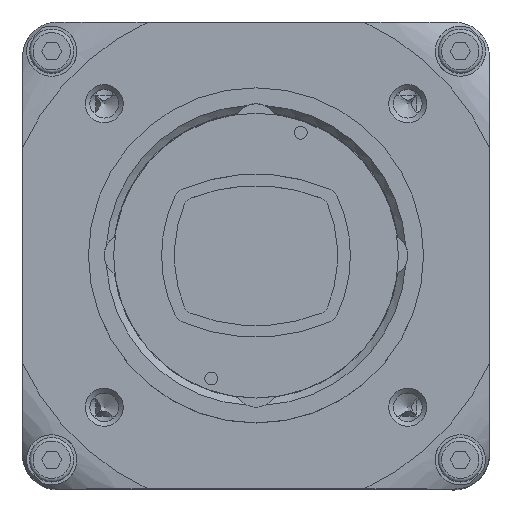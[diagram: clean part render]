
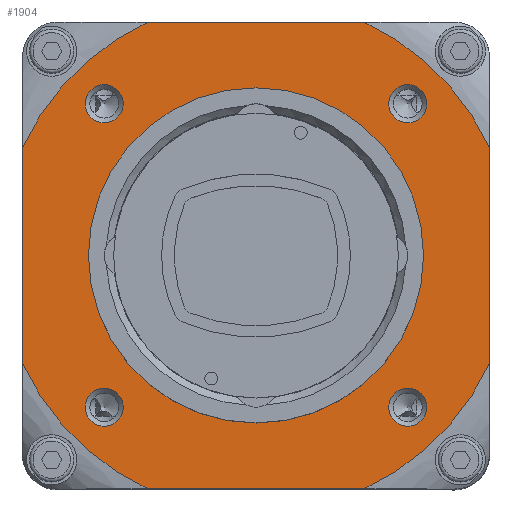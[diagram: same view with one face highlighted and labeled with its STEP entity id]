
A CAD part, top view. The second image highlights one B-rep face of the part: STEP entity #1904.
In plain terms, the highlighted planar face has unit normal (0, 0, 1).
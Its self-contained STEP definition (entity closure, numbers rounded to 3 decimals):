
#1904 = ADVANCED_FACE( '', ( #5516, #5517, #5518, #5519, #5520, #5521 ), #5522, .F. );
#5516 = FACE_BOUND( '', #11704, .T. );
#5517 = FACE_BOUND( '', #11705, .T. );
#5518 = FACE_BOUND( '', #11706, .T. );
#5519 = FACE_BOUND( '', #11707, .T. );
#5520 = FACE_BOUND( '', #11708, .T. );
#5521 = FACE_OUTER_BOUND( '', #11709, .T. );
#5522 = PLANE( '', #11710 );
#11704 = EDGE_LOOP( '', ( #20243 ) );
#11705 = EDGE_LOOP( '', ( #20244 ) );
#11706 = EDGE_LOOP( '', ( #20245 ) );
#11707 = EDGE_LOOP( '', ( #20246 ) );
#11708 = EDGE_LOOP( '', ( #20247 ) );
#11709 = EDGE_LOOP( '', ( #20248, #20249, #20250, #20251, #20252, #20253, #20254, #20255 ) );
#11710 = AXIS2_PLACEMENT_3D( '', #20256, #20257, #20258 );
#20243 = ORIENTED_EDGE( '', *, *, #34147, .T. );
#20244 = ORIENTED_EDGE( '', *, *, #34148, .T. );
#20245 = ORIENTED_EDGE( '', *, *, #34149, .T. );
#20246 = ORIENTED_EDGE( '', *, *, #33952, .T. );
#20247 = ORIENTED_EDGE( '', *, *, #34150, .T. );
#20248 = ORIENTED_EDGE( '', *, *, #34151, .F. );
#20249 = ORIENTED_EDGE( '', *, *, #34152, .T. );
#20250 = ORIENTED_EDGE( '', *, *, #34153, .F. );
#20251 = ORIENTED_EDGE( '', *, *, #34154, .T. );
#20252 = ORIENTED_EDGE( '', *, *, #34155, .F. );
#20253 = ORIENTED_EDGE( '', *, *, #34156, .T. );
#20254 = ORIENTED_EDGE( '', *, *, #34157, .F. );
#20255 = ORIENTED_EDGE( '', *, *, #34158, .T. );
#20256 = CARTESIAN_POINT( '', ( 0., 0., 12.3 ) );
#20257 = DIRECTION( '', ( 0., 0., -1. ) );
#20258 = DIRECTION( '', ( -1., 0., 0. ) );
#33952 = EDGE_CURVE( '', #39246, #39246, #39247, .T. );
#34147 = EDGE_CURVE( '', #39583, #39583, #39584, .T. );
#34148 = EDGE_CURVE( '', #39585, #39585, #39586, .T. );
#34149 = EDGE_CURVE( '', #39587, #39587, #39588, .T. );
#34150 = EDGE_CURVE( '', #39589, #39589, #39590, .T. );
#34151 = EDGE_CURVE( '', #39591, #39592, #39593, .T. );
#34152 = EDGE_CURVE( '', #39591, #39594, #39595, .T. );
#34153 = EDGE_CURVE( '', #39596, #39594, #39597, .T. );
#34154 = EDGE_CURVE( '', #39596, #39598, #39599, .T. );
#34155 = EDGE_CURVE( '', #39600, #39598, #39601, .T. );
#34156 = EDGE_CURVE( '', #39600, #39602, #39603, .T. );
#34157 = EDGE_CURVE( '', #39604, #39602, #39605, .T. );
#34158 = EDGE_CURVE( '', #39604, #39592, #39606, .T. );
#39246 = VERTEX_POINT( '', #47055 );
#39247 = CIRCLE( '', #47056, 1.63 );
#39583 = VERTEX_POINT( '', #47661 );
#39584 = CIRCLE( '', #47662, 1.63 );
#39585 = VERTEX_POINT( '', #47663 );
#39586 = CIRCLE( '', #47664, 1.63 );
#39587 = VERTEX_POINT( '', #47665 );
#39588 = CIRCLE( '', #47666, 1.63 );
#39589 = VERTEX_POINT( '', #47667 );
#39590 = CIRCLE( '', #47668, 14.35 );
#39591 = VERTEX_POINT( '', #47669 );
#39592 = VERTEX_POINT( '', #47670 );
#39593 = LINE( '', #47671, #47672 );
#39594 = VERTEX_POINT( '', #47673 );
#39595 = CIRCLE( '', #47674, 22.031 );
#39596 = VERTEX_POINT( '', #47675 );
#39597 = LINE( '', #47676, #47677 );
#39598 = VERTEX_POINT( '', #47678 );
#39599 = CIRCLE( '', #47679, 22.031 );
#39600 = VERTEX_POINT( '', #47680 );
#39601 = LINE( '', #47681, #47682 );
#39602 = VERTEX_POINT( '', #47683 );
#39603 = CIRCLE( '', #47684, 22.031 );
#39604 = VERTEX_POINT( '', #47685 );
#39605 = LINE( '', #47686, #47687 );
#39606 = CIRCLE( '', #47688, 22.031 );
#47055 = CARTESIAN_POINT( '', ( 11.371, 13., 12.3 ) );
#47056 = AXIS2_PLACEMENT_3D( '', #59655, #59656, #59657 );
#47661 = CARTESIAN_POINT( '', ( 11.371, -13., 12.3 ) );
#47662 = AXIS2_PLACEMENT_3D( '', #59904, #59905, #59906 );
#47663 = CARTESIAN_POINT( '', ( -14.63, -13., 12.3 ) );
#47664 = AXIS2_PLACEMENT_3D( '', #59907, #59908, #59909 );
#47665 = CARTESIAN_POINT( '', ( -14.63, 13., 12.3 ) );
#47666 = AXIS2_PLACEMENT_3D( '', #59910, #59911, #59912 );
#47667 = CARTESIAN_POINT( '', ( 14.35, 0., 12.3 ) );
#47668 = AXIS2_PLACEMENT_3D( '', #59913, #59914, #59915 );
#47669 = CARTESIAN_POINT( '', ( -9.238, 20., 12.3 ) );
#47670 = CARTESIAN_POINT( '', ( 9.238, 20., 12.3 ) );
#47671 = CARTESIAN_POINT( '', ( -20., 20., 12.3 ) );
#47672 = VECTOR( '', #59916, 1000. );
#47673 = CARTESIAN_POINT( '', ( -20., 9.238, 12.3 ) );
#47674 = AXIS2_PLACEMENT_3D( '', #59917, #59918, #59919 );
#47675 = CARTESIAN_POINT( '', ( -20., -9.238, 12.3 ) );
#47676 = CARTESIAN_POINT( '', ( -20., -20., 12.3 ) );
#47677 = VECTOR( '', #59920, 1000. );
#47678 = CARTESIAN_POINT( '', ( -9.238, -20., 12.3 ) );
#47679 = AXIS2_PLACEMENT_3D( '', #59921, #59922, #59923 );
#47680 = CARTESIAN_POINT( '', ( 9.238, -20., 12.3 ) );
#47681 = CARTESIAN_POINT( '', ( 20., -20., 12.3 ) );
#47682 = VECTOR( '', #59924, 1000. );
#47683 = CARTESIAN_POINT( '', ( 20., -9.238, 12.3 ) );
#47684 = AXIS2_PLACEMENT_3D( '', #59925, #59926, #59927 );
#47685 = CARTESIAN_POINT( '', ( 20., 9.238, 12.3 ) );
#47686 = CARTESIAN_POINT( '', ( 20., 20., 12.3 ) );
#47687 = VECTOR( '', #59928, 1000. );
#47688 = AXIS2_PLACEMENT_3D( '', #59929, #59930, #59931 );
#59655 = CARTESIAN_POINT( '', ( 13., 13., 12.3 ) );
#59656 = DIRECTION( '', ( 0., 0., -1. ) );
#59657 = DIRECTION( '', ( -1., 0., 0. ) );
#59904 = CARTESIAN_POINT( '', ( 13., -13., 12.3 ) );
#59905 = DIRECTION( '', ( 0., 0., -1. ) );
#59906 = DIRECTION( '', ( -1., 0., 0. ) );
#59907 = CARTESIAN_POINT( '', ( -13., -13., 12.3 ) );
#59908 = DIRECTION( '', ( 0., 0., -1. ) );
#59909 = DIRECTION( '', ( -1., 0., 0. ) );
#59910 = CARTESIAN_POINT( '', ( -13., 13., 12.3 ) );
#59911 = DIRECTION( '', ( 0., 0., -1. ) );
#59912 = DIRECTION( '', ( -1., 0., 0. ) );
#59913 = CARTESIAN_POINT( '', ( 0., 0., 12.3 ) );
#59914 = DIRECTION( '', ( 0., 0., -1. ) );
#59915 = DIRECTION( '', ( 1., 0., 0. ) );
#59916 = DIRECTION( '', ( 1., 0., 0. ) );
#59917 = CARTESIAN_POINT( '', ( 0., 0., 12.3 ) );
#59918 = DIRECTION( '', ( 0., 0., 1. ) );
#59919 = DIRECTION( '', ( 1., 0., 0. ) );
#59920 = DIRECTION( '', ( 0., 1., 0. ) );
#59921 = CARTESIAN_POINT( '', ( 0., 0., 12.3 ) );
#59922 = DIRECTION( '', ( 0., 0., 1. ) );
#59923 = DIRECTION( '', ( 1., 0., 0. ) );
#59924 = DIRECTION( '', ( -1., 0., 0. ) );
#59925 = CARTESIAN_POINT( '', ( 0., 0., 12.3 ) );
#59926 = DIRECTION( '', ( 0., 0., 1. ) );
#59927 = DIRECTION( '', ( 1., 0., 0. ) );
#59928 = DIRECTION( '', ( 0., -1., 0. ) );
#59929 = CARTESIAN_POINT( '', ( 0., 0., 12.3 ) );
#59930 = DIRECTION( '', ( 0., 0., 1. ) );
#59931 = DIRECTION( '', ( 1., 0., 0. ) );
